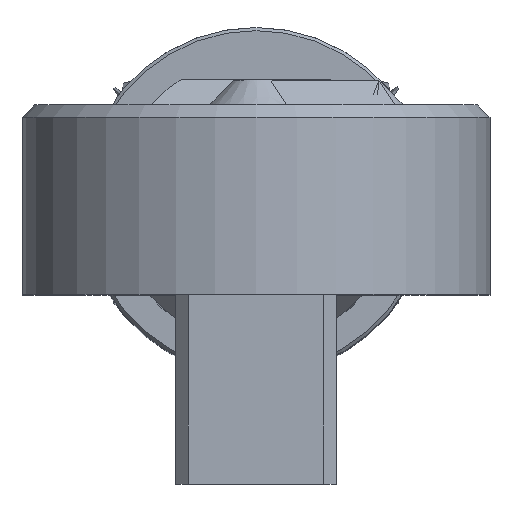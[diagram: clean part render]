
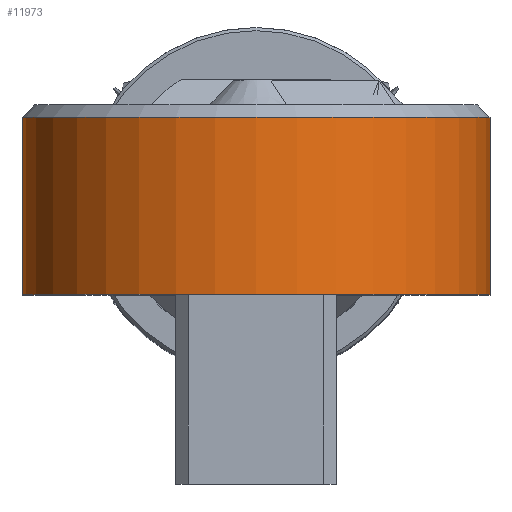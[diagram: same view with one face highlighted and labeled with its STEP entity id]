
A CAD part, top view. The second image highlights one B-rep face of the part: STEP entity #11973.
In plain terms, the highlighted cylindrical face has radius 37 mm (diameter 74 mm), a partial arc.
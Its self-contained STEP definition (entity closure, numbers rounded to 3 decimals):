
#10606=CARTESIAN_POINT('',(0.,2.5,1231.5));
#10607=DIRECTION('',(0.,-1.,0.));
#10608=DIRECTION('',(1.,0.,0.));
#10609=AXIS2_PLACEMENT_3D('',#10606,#10607,#10608);
#10692=CARTESIAN_POINT('',(0.,30.5,1231.5));
#10693=DIRECTION('',(0.,1.,0.));
#10694=DIRECTION('',(-1.,0.,0.));
#10695=AXIS2_PLACEMENT_3D('',#10692,#10693,#10694);
#11017=DIRECTION('',(0.,1.,0.));
#11018=VECTOR('',#11017,28.);
#11019=CARTESIAN_POINT('',(37.,2.5,1231.5));
#11020=LINE('',#11019,#11018);
#11021=DIRECTION('',(0.,-1.,0.));
#11022=VECTOR('',#11021,28.);
#11023=CARTESIAN_POINT('',(-37.,30.5,1231.5));
#11024=LINE('',#11023,#11022);
#11147=CARTESIAN_POINT('',(-37.,30.5,1231.5));
#11149=VERTEX_POINT('',#11147);
#11150=CARTESIAN_POINT('',(37.,30.5,1231.5));
#11151=VERTEX_POINT('',#11150);
#11154=CARTESIAN_POINT('',(37.,2.5,1231.5));
#11155=VERTEX_POINT('',#11154);
#11156=CARTESIAN_POINT('',(-37.,2.5,1231.5));
#11157=VERTEX_POINT('',#11156);
#11961=CARTESIAN_POINT('',(0.,37.,1231.5));
#11962=DIRECTION('',(0.,-1.,0.));
#11963=DIRECTION('',(1.,0.,0.));
#11964=AXIS2_PLACEMENT_3D('',#11961,#11962,#11963);
#11965=CYLINDRICAL_SURFACE('',#11964,37.);
#11966=ORIENTED_EDGE('',*,*,#11786,.F.);
#11967=ORIENTED_EDGE('',*,*,#11304,.T.);
#11969=ORIENTED_EDGE('',*,*,#11968,.F.);
#11970=ORIENTED_EDGE('',*,*,#11409,.T.);
#11971=EDGE_LOOP('',(#11966,#11967,#11969,#11970));
#11972=FACE_OUTER_BOUND('',#11971,.F.);
#10610=CIRCLE('',#10609,37.);
#10696=CIRCLE('',#10695,37.);
#11304=EDGE_CURVE('',#11155,#11157,#10610,.T.);
#11409=EDGE_CURVE('',#11149,#11151,#10696,.T.);
#11786=EDGE_CURVE('',#11155,#11151,#11020,.T.);
#11968=EDGE_CURVE('',#11149,#11157,#11024,.T.);
#11973=ADVANCED_FACE('',(#11972),#11965,.T.);
